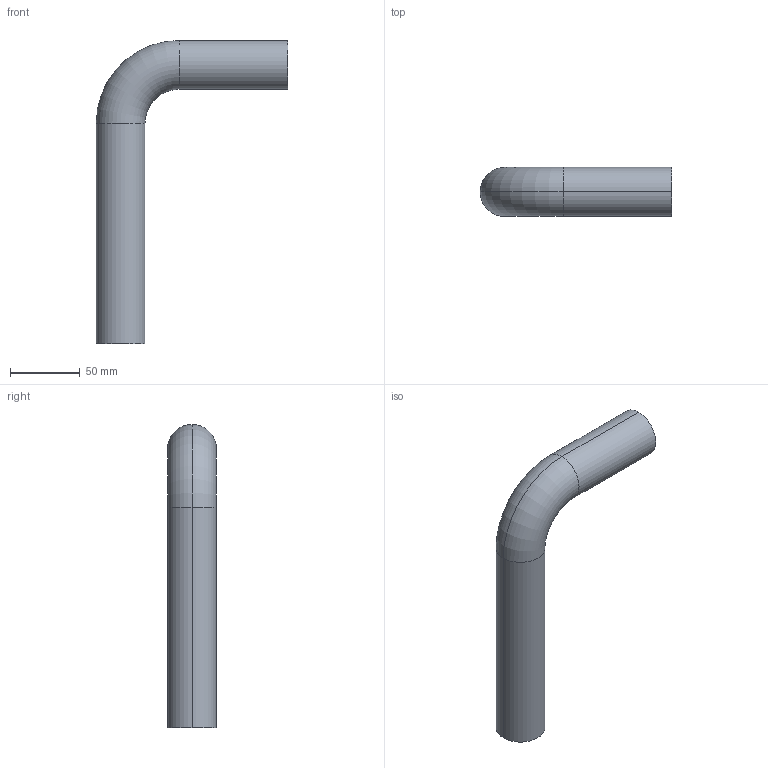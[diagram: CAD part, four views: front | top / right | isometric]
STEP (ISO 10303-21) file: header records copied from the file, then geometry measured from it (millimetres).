
FILE_DESCRIPTION(('OneSpaceDesigner STEP Export'),'2;1');
FILE_NAME('R2725 35x35.stp','2010-06-10T13:02:11',(''),(''),'OneSpace Designer STEP processor for AP214 (Solid Model)','OneSpace Modeling 15.00A 14-Mar-2007 (C) CoCreate Software GmbH','');
FILE_SCHEMA(('AUTOMOTIVE_DESIGN { 1 0 10303 214 1 1 1 1 }'));
Length unit declared in the file: millimetre
Products named in the file (2): R2725_35x35
Assembly tree (1 placements, depth 2):
  R2725_35x35
    R2725_35x35
Bounding box: 137.5 x 35 x 217.5 mm (x, y, z)
Volume: 47671 mm3; surface area: 63877.1 mm2
Topology: 1 solids, 1 shells, 14 faces, 28 edges, 16 vertices
Faces by surface type: cylinder 8, torus 4, plane 2
Entity records: 357 total; most frequent: DIRECTION 56, ORIENTED_EDGE 56, CARTESIAN_POINT 48, EDGE_CURVE 28, AXIS2_PLACEMENT_3D 24, VERTEX_POINT 16, EDGE_LOOP 16, CIRCLE 14
